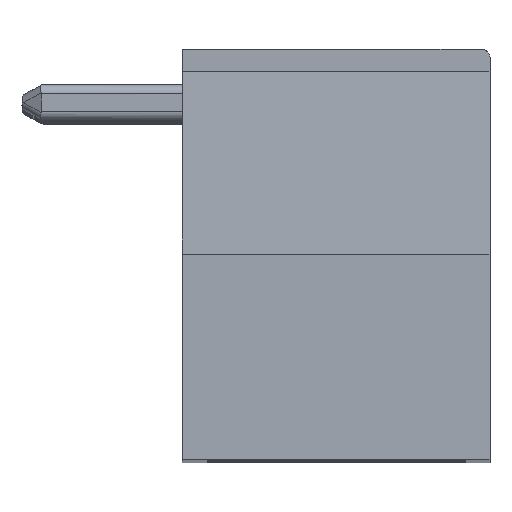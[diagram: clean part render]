
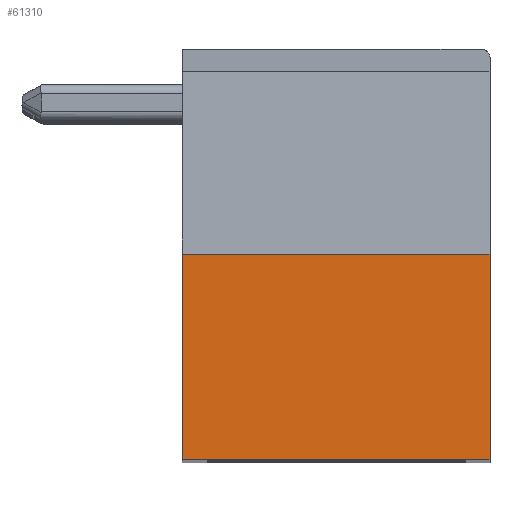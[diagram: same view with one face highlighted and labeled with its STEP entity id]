
A CAD part, top view. The second image highlights one B-rep face of the part: STEP entity #61310.
In plain terms, the highlighted planar face has unit normal (0, 0, 1).
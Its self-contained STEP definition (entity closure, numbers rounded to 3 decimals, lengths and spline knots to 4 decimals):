
#28455 = CARTESIAN_POINT ( 'NONE',  ( 4.6878, -0.2628, 0. ) ) ;
#28457 = DIRECTION ( 'NONE',  ( -1., 0., 0. ) ) ;
#28459 = VECTOR ( 'NONE', #28457, 1000. ) ;
#28461 = CARTESIAN_POINT ( 'NONE',  ( 1.2378, -0.2628, 0. ) ) ;
#28471 = LINE ( 'NONE', #28461, #28459 ) ;
#28802 = CARTESIAN_POINT ( 'NONE',  ( -2.2122, -0.2628, 0. ) ) ;
#28904 = FACE_OUTER_BOUND ( 'NONE', #61311, .T. ) ;
#28912 = PLANE ( 'NONE',  #29052 ) ;
#28991 = CARTESIAN_POINT ( 'NONE',  ( -2.2122, -4.8628, 0. ) ) ;
#28993 = CARTESIAN_POINT ( 'NONE',  ( 0.0878, -4.8628, 0. ) ) ;
#28994 = CARTESIAN_POINT ( 'NONE',  ( 2.3878, -4.8628, 0. ) ) ;
#28997 = CARTESIAN_POINT ( 'NONE',  ( 4.6878, -4.8628, 0. ) ) ;
#29004 = B_SPLINE_CURVE_WITH_KNOTS ( 'NONE', 3,
 ( #28997, #28994, #28993, #28991 ),
 .UNSPECIFIED., .F., .F.,
 ( 4, 4 ),
 ( 0., 1. ),
 .UNSPECIFIED. ) ;
#29013 = CARTESIAN_POINT ( 'NONE',  ( -2.2122, -4.8628, 0. ) ) ;
#29015 = DIRECTION ( 'NONE',  ( 0., 1., 0. ) ) ;
#29016 = VECTOR ( 'NONE', #29015, 1000. ) ;
#29018 = CARTESIAN_POINT ( 'NONE',  ( -2.2122, -0.2628, 0. ) ) ;
#29022 = CARTESIAN_POINT ( 'NONE',  ( 4.6878, -4.8628, 0. ) ) ;
#29023 = CARTESIAN_POINT ( 'NONE',  ( 4.6878, -3.3295, 0. ) ) ;
#29025 = CARTESIAN_POINT ( 'NONE',  ( 4.6878, -1.7961, 0. ) ) ;
#29026 = CARTESIAN_POINT ( 'NONE',  ( 4.6878, -0.2628, 0. ) ) ;
#29032 = CARTESIAN_POINT ( 'NONE',  ( 4.6878, -4.8628, 0. ) ) ;
#29033 = B_SPLINE_CURVE_WITH_KNOTS ( 'NONE', 3,
 ( #29026, #29025, #29023, #29022 ),
 .UNSPECIFIED., .F., .F.,
 ( 4, 4 ),
 ( 0., 1. ),
 .UNSPECIFIED. ) ;
#29040 = LINE ( 'NONE', #29018, #29016 ) ;
#29045 = DIRECTION ( 'NONE',  ( 1., 0., 0. ) ) ;
#29048 = DIRECTION ( 'NONE',  ( 0., 0., 1. ) ) ;
#29050 = CARTESIAN_POINT ( 'NONE',  ( -2.2122, -4.8628, 0. ) ) ;
#29052 = AXIS2_PLACEMENT_3D ( 'NONE', #29050, #29048, #29045 ) ;
#61189 = EDGE_CURVE ( 'NONE', #61190, #61268, #28471, .T. ) ;
#61190 = VERTEX_POINT ( 'NONE', #28455 ) ;
#61268 = VERTEX_POINT ( 'NONE', #28802 ) ;
#61310 = ADVANCED_FACE ( 'NONE', ( #28904 ), #28912, .T. ) ;
#61311 = EDGE_LOOP ( 'NONE', ( #61312, #61315, #61316, #61319 ) ) ;
#61312 = ORIENTED_EDGE ( 'NONE', *, *, #61313, .F. ) ;
#61313 = EDGE_CURVE ( 'NONE', #61190, #61314, #29033, .T. ) ;
#61314 = VERTEX_POINT ( 'NONE', #29032 ) ;
#61315 = ORIENTED_EDGE ( 'NONE', *, *, #61189, .T. ) ;
#61316 = ORIENTED_EDGE ( 'NONE', *, *, #61317, .F. ) ;
#61317 = EDGE_CURVE ( 'NONE', #61318, #61268, #29040, .T. ) ;
#61318 = VERTEX_POINT ( 'NONE', #29013 ) ;
#61319 = ORIENTED_EDGE ( 'NONE', *, *, #61320, .F. ) ;
#61320 = EDGE_CURVE ( 'NONE', #61314, #61318, #29004, .T. ) ;
